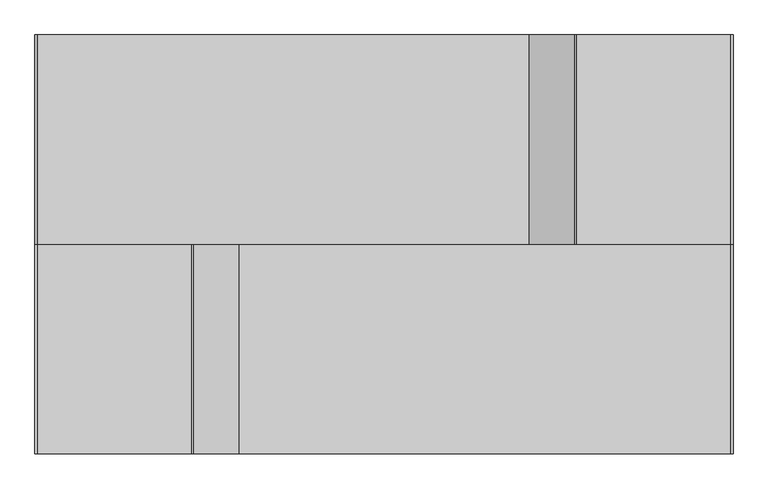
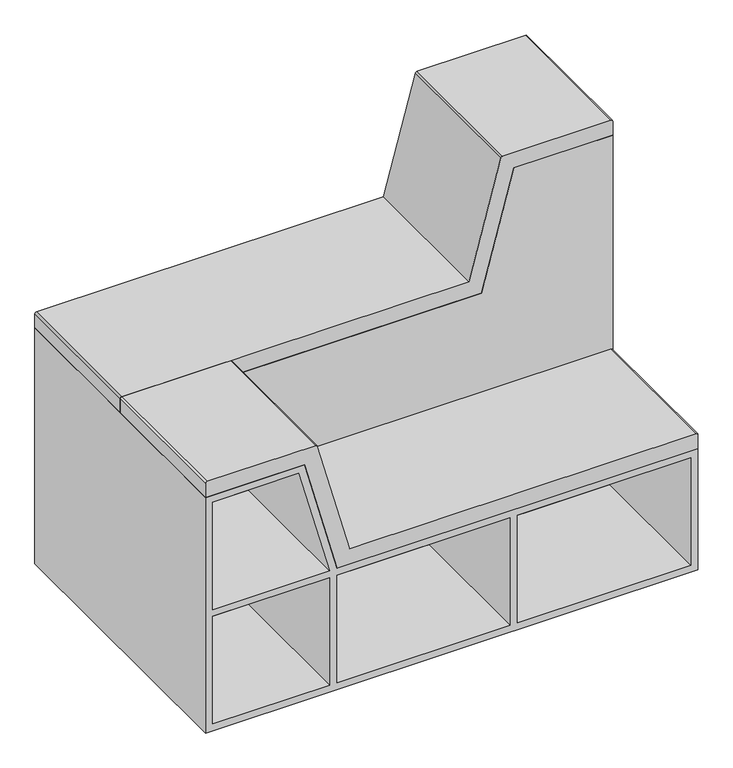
"""IFC4 building model written with IfcOpenShell, lengths in millimetres: furniture geometry, BK Library - HopOn - Left : BK Library - HopOn - Left."""

import ifcopenshell
import ifcopenshell.guid

model = None  # the IFC model being written
_history = None  # IfcOwnerHistory: only IFC2X3 demands one
_inside = {}  # id of a spatial element -> (the spatial element, [elements in it])
_under = {}  # id of a project, library or spatial element -> (it, [spatial elements below it])
_declared = {}  # id of a project -> (the project, [libraries it declares])
_typed = {}  # id of a type object -> (the type object, [elements of that type])
_made_of = {}  # id of a material, layer set ... -> (it, [elements and type objects made of it])


def new_model(schema):
    """Start an empty IFC model of exactly this schema.

    Asked for "IFC4X3", IfcOpenShell would pick the latest addendum, in which some entities
    have other attributes; the version numbers below select the first issue.
    IFC2X3 requires an IfcOwnerHistory on every rooted entity: one is made here for all.
    """
    global model, _history
    if schema == "IFC4X3":
        model = ifcopenshell.file(schema_version=(4, 3, 0, 0))
    else:
        model = ifcopenshell.file(schema=schema)
    _inside.clear()
    _under.clear()
    _declared.clear()
    _typed.clear()
    _made_of.clear()
    _history = None
    if model.schema == "IFC2X3":
        org = make("IfcOrganization", Name="unknown")
        user = make(
            "IfcPersonAndOrganization",
            ThePerson=make("IfcPerson", FamilyName="unknown"),
            TheOrganization=org,
        )
        app = make(
            "IfcApplication",
            ApplicationDeveloper=org,
            Version="unknown",
            ApplicationFullName="unknown",
            ApplicationIdentifier="unknown",
        )
        _history = make(
            "IfcOwnerHistory",
            OwningUser=user,
            OwningApplication=app,
            ChangeAction="ADDED",
            CreationDate=0,
        )
    return model


def make(cls, **values):
    """One entity of the class cls with the attributes given. An attribute that is None is left unset."""
    return model.create_entity(
        cls, **{name: value for name, value in values.items() if value is not None}
    )


def rooted(cls, **values):
    """An entity with a GlobalId (a new one), such as an element, a storey or a relation."""
    return make(cls, GlobalId=ifcopenshell.guid.new(), OwnerHistory=_history, **values)


def si_unit(unit_type, name, prefix=None):
    """IfcSIUnit, for example si_unit("LENGTHUNIT", "METRE", prefix="MILLI")."""
    return make("IfcSIUnit", UnitType=unit_type, Prefix=prefix, Name=name)


def assignment(units):
    """IfcUnitAssignment: the units of a project."""
    return None if units is None else make("IfcUnitAssignment", Units=units)


def point(xyz):
    """IfcCartesianPoint."""
    return None if xyz is None else make("IfcCartesianPoint", Coordinates=xyz)


def direction(xyz):
    """IfcDirection."""
    return None if xyz is None else make("IfcDirection", DirectionRatios=xyz)


def frame(location, z_axis=None, x_axis=None):
    """IfcAxis2Placement3D, a coordinate frame: its origin and axes. An axis left out is left unset."""
    return make(
        "IfcAxis2Placement3D",
        Location=point(location),
        Axis=direction(z_axis),
        RefDirection=direction(x_axis),
    )


def frame_2d(location, x_axis=None):
    """IfcAxis2Placement2D, a coordinate frame in the plane: its origin and x axis."""
    return make(
        "IfcAxis2Placement2D", Location=point(location), RefDirection=direction(x_axis)
    )


def origin():
    """The frame at (0, 0, 0) with its axes left unset."""
    return frame((0.0, 0.0, 0.0))


def place(relative_to, where):
    """IfcLocalPlacement: puts the frame where relative to a parent placement (None: the world)."""
    return make(
        "IfcLocalPlacement", PlacementRelTo=relative_to, RelativePlacement=where
    )


def context(
    kind, dimensions, precision=None, world=None, true_north=None, identifier=None
):
    """IfcGeometricRepresentationContext, for example the 3D "Model" context."""
    return make(
        "IfcGeometricRepresentationContext",
        ContextIdentifier=identifier,
        ContextType=kind,
        CoordinateSpaceDimension=dimensions,
        Precision=precision,
        WorldCoordinateSystem=world,
        TrueNorth=true_north,
    )


def project(units=None, contexts=None):
    """IfcProject with its units and contexts."""
    return rooted(
        "IfcProject",
        Name="project",
        RepresentationContexts=contexts,
        UnitsInContext=assignment(units),
    )


def spatial(cls, under=None, at=None, **own):
    """A site, building, storey or space (cls), placed at a placement, below another one or the project."""
    s = rooted(cls, ObjectPlacement=at, **own)
    if under is not None:
        _under.setdefault(under.id(), (under, []))[1].append(s)
    return s


def polyline(points):
    """IfcPolyline through the points."""
    return make("IfcPolyline", Points=[point(p) for p in points])


def circle_curve(where, radius):
    """IfcCircle in the frame where."""
    return make("IfcCircle", Position=where, Radius=radius)


def trimmed(basis, trim1, trim2, sense, master):
    """IfcTrimmedCurve: the piece of a basis curve between two trims."""
    return make(
        "IfcTrimmedCurve",
        BasisCurve=basis,
        Trim1=trim1,
        Trim2=trim2,
        SenseAgreement=sense,
        MasterRepresentation=master,
    )


def segment(curve, same_sense, transition):
    """IfcCompositeCurveSegment."""
    return make(
        "IfcCompositeCurveSegment",
        Transition=transition,
        SameSense=same_sense,
        ParentCurve=curve,
    )


def composite_curve(segments, self_intersect=None):
    """IfcCompositeCurve: segments joined end to end."""
    return make("IfcCompositeCurve", Segments=segments, SelfIntersect=self_intersect)


def outline(outer, holes=None, kind="AREA"):
    """IfcArbitraryClosedProfileDef: a profile drawn as a closed curve; with holes, ...WithVoids."""
    if holes is None:
        return make("IfcArbitraryClosedProfileDef", ProfileType=kind, OuterCurve=outer)
    return make(
        "IfcArbitraryProfileDefWithVoids",
        ProfileType=kind,
        OuterCurve=outer,
        InnerCurves=holes,
    )


def extrude(swept, where, along, depth):
    """IfcExtrudedAreaSolid: the profile swept, set in the frame where, extruded along a direction by depth."""
    return make(
        "IfcExtrudedAreaSolid",
        SweptArea=swept,
        Position=where,
        ExtrudedDirection=direction(along),
        Depth=depth,
    )


def faces_of(points, faces, orient=None, outer=None):
    """IfcFace entities. A face is a list of loops; a loop is a list of indices into points, from 0.

    orient and outer hold one flag for each loop. By default every Orientation is true, the
    first loop of a face is its IfcFaceOuterBound and the others are IfcFaceBound.
    """
    made = []
    for i, loops in enumerate(faces):
        bounds = []
        for j, loop in enumerate(loops):
            is_outer = j == 0 if outer is None else outer[i][j]
            bounds.append(
                make(
                    "IfcFaceOuterBound" if is_outer else "IfcFaceBound",
                    Bound=make("IfcPolyLoop", Polygon=[points[k] for k in loop]),
                    Orientation=True if orient is None else orient[i][j],
                )
            )
        made.append(make("IfcFace", Bounds=bounds))
    return made


def faceted_brep(points, faces, orient=None, outer=None, voids=None):
    """IfcFacetedBrep: a solid bounded by flat faces; with voids (closed shells), ...WithVoids."""
    shared = [point(p) for p in points]
    hull = make("IfcClosedShell", CfsFaces=faces_of(shared, faces, orient, outer))
    if voids is None:
        return make("IfcFacetedBrep", Outer=hull)
    return make(
        "IfcFacetedBrepWithVoids",
        Outer=hull,
        Voids=[
            make(cls, CfsFaces=faces_of(shared, fs, o, b)) for cls, fs, o, b in voids
        ],
    )


def shape(context_of_items, identifier, shape_type, items):
    """IfcShapeRepresentation: the items that make up one representation, for example the "Body"."""
    return make(
        "IfcShapeRepresentation",
        ContextOfItems=context_of_items,
        RepresentationIdentifier=identifier,
        RepresentationType=shape_type,
        Items=items,
    )


def source(mapping_origin, context_of_items, identifier, shape_type, items):
    """IfcRepresentationMap: a shape defined once, which mapped items show again and again."""
    return make(
        "IfcRepresentationMap",
        MappingOrigin=mapping_origin,
        MappedRepresentation=shape(context_of_items, identifier, shape_type, items),
    )


def transform(
    local_origin,
    x_axis=None,
    y_axis=None,
    z_axis=None,
    scale=None,
    scale2=None,
    scale3=None,
    uniform=True,
):
    """IfcCartesianTransformationOperator3D, or its non-uniform kind. x_axis, y_axis, z_axis: its Axis1, 2, 3."""
    if uniform:
        return make(
            "IfcCartesianTransformationOperator3D",
            Axis1=direction(x_axis),
            Axis2=direction(y_axis),
            LocalOrigin=point(local_origin),
            Scale=scale,
            Axis3=direction(z_axis),
        )
    return make(
        "IfcCartesianTransformationOperator3DnonUniform",
        Axis1=direction(x_axis),
        Axis2=direction(y_axis),
        LocalOrigin=point(local_origin),
        Scale=scale,
        Axis3=direction(z_axis),
        Scale2=scale2,
        Scale3=scale3,
    )


def mapped(mapping_source, mapping_target):
    """IfcMappedItem: shows the shape of a source again, moved by a transform."""
    return make(
        "IfcMappedItem", MappingSource=mapping_source, MappingTarget=mapping_target
    )


def made_of(thing, what):
    """Note that an element or type object is made of a material, layer set ...; save() writes the relation."""
    if what is not None:
        _made_of.setdefault(what.id(), (what, []))[1].append(thing)
    return thing


def element(
    cls,
    number,
    at=None,
    inside=None,
    cuts=None,
    type_object=None,
    material=None,
    context=None,
    identifier="Body",
    shape_type=None,
    held_by="IfcProductDefinitionShape",
    body=None,
    shapes=None,
    **own,
):
    """One element of the class cls, such as IfcWall. Its Tag is "e" and its number.

    at: its placement. inside: the storey or other place that contains it. cuts: it is an
    opening in that element (IfcRelVoidsElement). A single representation is given by context,
    identifier, shape_type and body (its items); several are given by shapes. held_by: the class
    of the entity that holds the representations. save() writes the other relations.
    """
    e = rooted(cls, Tag="e%d" % number, ObjectPlacement=at, **own)
    if body is not None:
        shapes = [shape(context, identifier, shape_type, body)]
    if shapes is not None:
        e.Representation = make(held_by, Representations=shapes)
    if inside is not None:
        _inside.setdefault(inside.id(), (inside, []))[1].append(e)
    if cuts is not None:
        rooted(
            "IfcRelVoidsElement", RelatingBuildingElement=cuts, RelatedOpeningElement=e
        )
    if type_object is not None:
        _typed.setdefault(type_object.id(), (type_object, []))[1].append(e)
    return made_of(e, material)


def aggregate(whole, parts):
    """IfcRelAggregates: a whole, such as a stair, and the parts it consists of."""
    return rooted("IfcRelAggregates", RelatingObject=whole, RelatedObjects=parts)


def save(model, path):
    """Write the relations noted so far, then the file.

    IfcRelAggregates (storeys below a building ...), IfcRelContainedInSpatialStructure (elements
    in a storey), IfcRelDefinesByType, IfcRelAssociatesMaterial and IfcRelDeclares: one each for
    every whole, place, type object, material and project.
    """
    for whole, parts in _under.values():
        aggregate(whole, parts)
    for where, things in _inside.values():
        rooted(
            "IfcRelContainedInSpatialStructure",
            RelatedElements=things,
            RelatingStructure=where,
        )
    for kind, things in _typed.values():
        rooted("IfcRelDefinesByType", RelatedObjects=things, RelatingType=kind)
    for what, things in _made_of.values():
        rooted("IfcRelAssociatesMaterial", RelatedObjects=things, RelatingMaterial=what)
    for by, libraries in _declared.values():
        rooted("IfcRelDeclares", RelatingContext=by, RelatedDefinitions=libraries)
    model.write(path)


def furniture_1fdde961(model_context):
    return source(origin(), model_context, "Body", "SolidModel", [
        faceted_brep([(750.0000034, 0.0, 1126.0), (448.913278, 0.0, 1126.0), (349.9999832, 0.0, 758.0), (-448.9132982, 0.0, 758.0), (-350.0000034, 0.0, 390.0), (750.0000034, 0.0, 390.0), (199.9999966, -21.9999997, 368.0), (199.9999966, -21.9999997, 22.0), (727.9999966, -21.9999997, 22.0), (727.9999966, -21.9999997, 368.0), (-350.0000034, -21.9999997, 368.0), (-350.0000034, -21.9999997, 22.0), (177.9999966, -21.9999997, 22.0), (177.9999966, -21.9999997, 368.0), (-728.0000034, -21.9999997, 368.0), (-728.0000034, -21.9999997, 22.0), (-372.0000034, -21.9999997, 22.0), (-372.0000034, -21.9999997, 368.0), (-372.7808518, -21.9999997, 390.0), (-465.7808518, -21.9999997, 736.0), (-728.0000034, -21.9999997, 736.0), (-728.0000034, -21.9999997, 390.0), (-728.0000034, 22.0000003, 736.0), (-200.0000034, 22.0000003, 736.0), (-200.0000034, 22.0000003, 390.0), (-728.0000034, 22.0000003, 390.0), (-178.0000034, 22.0000003, 736.0), (349.9999966, 22.0000003, 736.0), (349.9999966, 22.0000003, 390.0), (-178.0000034, 22.0000003, 390.0), (371.9999966, 22.0000003, 736.0), (727.9999966, 22.0000003, 736.0), (727.9999966, 22.0000003, 390.0), (371.9999966, 22.0000003, 390.0), (-728.0000034, 22.0000003, 368.0), (-200.0000034, 22.0000003, 368.0), (-200.0000034, 22.0000003, 22.0), (-728.0000034, 22.0000003, 22.0), (-178.0000034, 22.0000003, 368.0), (349.9999966, 22.0000003, 368.0), (349.9999966, 22.0000003, 22.0), (-178.0000034, 22.0000003, 22.0), (371.9999966, 22.0000003, 368.0), (727.9999966, 22.0000003, 368.0), (727.9999966, 22.0000003, 22.0), (371.9999966, 22.0000003, 22.0), (372.7808317, 22.0000003, 758.0), (465.7808317, 22.0000003, 1104.0), (727.9999966, 22.0000003, 1104.0), (727.9999966, 22.0000003, 758.0), (-750.0000034, 450.0000003, 758.0), (349.9999832, 450.0000003, 758.0), (448.913278, 450.0000003, 1126.0), (750.0000034, 450.0000003, 1126.0), (750.0000034, 450.0000003, 0.0), (-750.0000034, 450.0000003, 0.0), (-200.0000034, 450.0000003, 736.0), (-728.0000034, 450.0000003, 736.0), (-728.0000034, 450.0000003, 390.0), (-200.0000034, 450.0000003, 390.0), (349.9999966, 450.0000003, 736.0), (-178.0000034, 450.0000003, 736.0), (-178.0000034, 450.0000003, 390.0), (349.9999966, 450.0000003, 390.0), (727.9999966, 450.0000003, 736.0), (371.9999966, 450.0000003, 736.0), (371.9999966, 450.0000003, 390.0), (727.9999966, 450.0000003, 390.0), (-200.0000034, 450.0000003, 368.0), (-728.0000034, 450.0000003, 368.0), (-728.0000034, 450.0000003, 22.0), (-200.0000034, 450.0000003, 22.0), (349.9999966, 450.0000003, 368.0), (-178.0000034, 450.0000003, 368.0), (-178.0000034, 450.0000003, 22.0), (349.9999966, 450.0000003, 22.0), (727.9999966, 450.0000003, 368.0), (371.9999966, 450.0000003, 368.0), (371.9999966, 450.0000003, 22.0), (727.9999966, 450.0000003, 22.0), (465.7808317, 450.0000003, 1104.0), (372.7808317, 450.0000003, 758.0), (727.9999966, 450.0000003, 758.0), (727.9999966, 450.0000003, 1104.0), (-750.0000034, -449.9999997, 758.0), (-448.9132982, -449.9999997, 758.0), (750.0000034, -449.9999997, 390.0), (750.0000034, -449.9999997, 0.0), (-750.0000034, -449.9999997, 0.0), (-350.0000034, -449.9999997, 390.0), (199.9999966, -449.9999997, 368.0), (727.9999966, -449.9999997, 368.0), (727.9999966, -449.9999997, 22.0), (199.9999966, -449.9999997, 22.0), (-350.0000034, -449.9999997, 368.0), (177.9999966, -449.9999997, 368.0), (177.9999966, -449.9999997, 22.0), (-350.0000034, -449.9999997, 22.0), (-728.0000034, -449.9999997, 368.0), (-372.0000034, -449.9999997, 368.0), (-372.0000034, -449.9999997, 22.0), (-728.0000034, -449.9999997, 22.0), (-372.7808518, -449.9999997, 390.0), (-728.0000034, -449.9999997, 390.0), (-728.0000034, -449.9999997, 736.0), (-465.7808518, -449.9999997, 736.0)], [[[0, 1, 2, 3, 4, 5]], [[6, 7, 8, 9]], [[10, 11, 12, 13]], [[14, 15, 16, 17]], [[18, 19, 20, 21]], [[22, 23, 24, 25]], [[26, 27, 28, 29]], [[30, 31, 32, 33]], [[34, 35, 36, 37]], [[38, 39, 40, 41]], [[42, 43, 44, 45]], [[46, 47, 48, 49]], [[50, 51, 52, 53, 54, 55], [56, 57, 58, 59], [60, 61, 62, 63], [64, 65, 66, 67], [68, 69, 70, 71], [72, 73, 74, 75], [76, 77, 78, 79], [80, 81, 82, 83]], [[51, 50, 84, 85, 3, 2]], [[2, 1, 52, 51]], [[1, 0, 53, 52]], [[54, 53, 0, 5, 86, 87]], [[55, 54, 87, 88]], [[84, 50, 55, 88]], [[57, 56, 23, 22]], [[58, 57, 22, 25]], [[59, 58, 25, 24]], [[56, 59, 24, 23]], [[61, 60, 27, 26]], [[62, 61, 26, 29]], [[63, 62, 29, 28]], [[60, 63, 28, 27]], [[65, 64, 31, 30]], [[66, 65, 30, 33]], [[67, 66, 33, 32]], [[64, 67, 32, 31]], [[69, 68, 35, 34]], [[70, 69, 34, 37]], [[71, 70, 37, 36]], [[68, 71, 36, 35]], [[73, 72, 39, 38]], [[74, 73, 38, 41]], [[75, 74, 41, 40]], [[72, 75, 40, 39]], [[77, 76, 43, 42]], [[78, 77, 42, 45]], [[79, 78, 45, 44]], [[76, 79, 44, 43]], [[81, 80, 47, 46]], [[82, 81, 46, 49]], [[83, 82, 49, 48]], [[80, 83, 48, 47]], [[86, 89, 85, 84, 88, 87], [90, 91, 92, 93], [94, 95, 96, 97], [98, 99, 100, 101], [102, 103, 104, 105]], [[85, 89, 4, 3]], [[89, 86, 5, 4]], [[90, 93, 7, 6]], [[93, 92, 8, 7]], [[92, 91, 9, 8]], [[91, 90, 6, 9]], [[94, 97, 11, 10]], [[97, 96, 12, 11]], [[96, 95, 13, 12]], [[95, 94, 10, 13]], [[98, 101, 15, 14]], [[101, 100, 16, 15]], [[100, 99, 17, 16]], [[99, 98, 14, 17]], [[102, 105, 19, 18]], [[105, 104, 20, 19]], [[104, 103, 21, 20]], [[103, 102, 18, 21]]]),
        extrude(outline(composite_curve([segment(trimmed(circle_curve(frame_2d((803.0, -745.0000034)), 5.0), [point((808.0, -745.0000034))], [point((803.0, -750.0000034))], False, "CARTESIAN"), True, "CONTINUOUS"), segment(polyline([(803.0, -750.0000034), (758.0, -750.0000034), (758.0, 350.0000034), (1126.0, 448.9132982), (1126.0, 750.0000034), (1171.0, 750.0000034)]), True, "CONTINUOUS"), segment(trimmed(circle_curve(frame_2d((1171.0, 745.0000034)), 5.0), [point((1171.0, 750.0000034))], [point((1176.0, 745.0000034))], False, "CARTESIAN"), True, "CONTINUOUS"), segment(polyline([(1176.0, 745.0000034), (1176.0, 414.4093992)]), True, "CONTINUOUS"), segment(trimmed(circle_curve(frame_2d((1171.0, 414.4093992)), 5.0), [point((1176.0, 414.4093992))], [point((1172.2978396, 409.5807749))], False, "CARTESIAN"), True, "CONTINUOUS"), segment(polyline([(1172.2978396, 409.5807749), (808.0, 311.6646542), (808.0, -745.0000034)]), True, "CONTINUOUS")], self_intersect=False)), frame((0.0, 0.0, 0.0), z_axis=(0.0, 1.0, 0.0), x_axis=(0.0, 0.0, 1.0)), (0.0, 0.0, 1.0), 449.9999997),
        extrude(outline(composite_curve([segment(polyline([(440.0, 745.0000034), (440.0, -311.6646542), (804.2978396, -409.5807749)]), True, "CONTINUOUS"), segment(trimmed(circle_curve(frame_2d((803.0, -414.4093992)), 5.0), [point((804.2978396, -409.5807749))], [point((808.0, -414.4093992))], False, "CARTESIAN"), True, "CONTINUOUS"), segment(polyline([(808.0, -414.4093992), (808.0, -745.0000034)]), True, "CONTINUOUS"), segment(trimmed(circle_curve(frame_2d((803.0, -745.0000034)), 5.0), [point((808.0, -745.0000034))], [point((803.0, -750.0000034))], False, "CARTESIAN"), True, "CONTINUOUS"), segment(polyline([(803.0, -750.0000034), (758.0, -750.0000034), (758.0, -448.9132982), (390.0, -350.0000034), (390.0, 750.0000034), (435.0, 750.0000034)]), True, "CONTINUOUS"), segment(trimmed(circle_curve(frame_2d((435.0, 745.0000034)), 5.0), [point((435.0, 750.0000034))], [point((440.0, 745.0000034))], False, "CARTESIAN"), True, "CONTINUOUS")], self_intersect=False)), frame((0.0, -449.9999997, 0.0), z_axis=(0.0, 1.0, 0.0), x_axis=(0.0, 0.0, 1.0)), (0.0, 0.0, 1.0), 449.9999997),
    ])


if __name__ == "__main__":
    model = new_model("IFC4")
    model_context = context("Model", 3, world=origin())
    ifc_project = project(units=[si_unit("LENGTHUNIT", "METRE", prefix="MILLI")], contexts=[model_context])
    site = spatial("IfcSite", under=ifc_project)
    building = spatial("IfcBuilding", under=site)
    placement = place(None, origin())
    furniture_shape = furniture_1fdde961(model_context)
    element("IfcFurniture", 1, ObjectType="BK Library - HopOn - Left : BK Library - HopOn - Left", at=placement, inside=building, context=model_context, shape_type="MappedRepresentation", body=[
        mapped(furniture_shape, transform((0.0, 0.0, 0.0), x_axis=(1.0, 0.0, 0.0), y_axis=(0.0, 1.0, 0.0), z_axis=(0.0, 0.0, 1.0))),
    ])
    save(model, "model.ifc")
